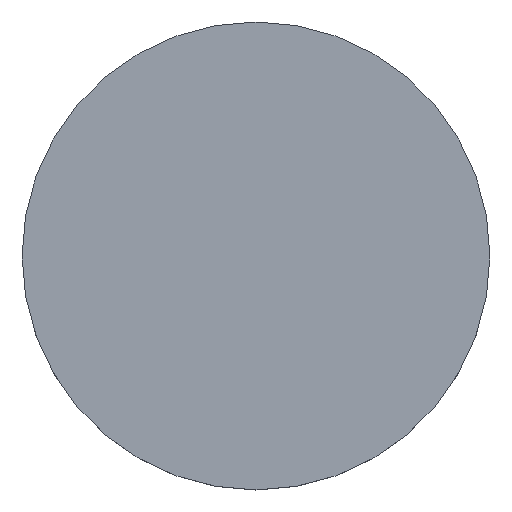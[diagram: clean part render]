
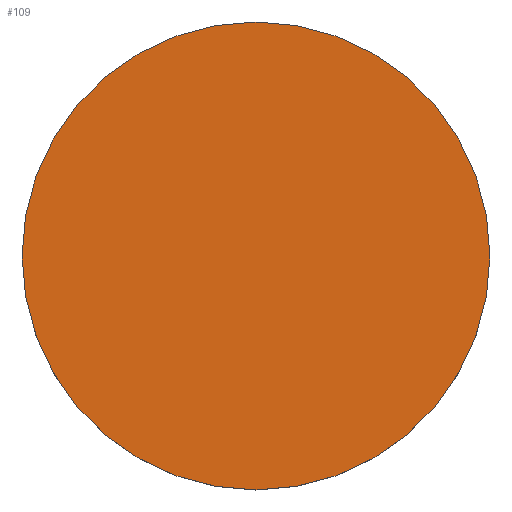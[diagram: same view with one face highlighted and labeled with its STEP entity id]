
A CAD part, top view. The second image highlights one B-rep face of the part: STEP entity #109.
In plain terms, the highlighted planar face has unit normal (0, 0, 1).
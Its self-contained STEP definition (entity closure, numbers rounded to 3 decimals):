
#24 = VERTEX_POINT('',#25);
#25 = CARTESIAN_POINT('',(6.5,0.,-7.5));
#32 = CYLINDRICAL_SURFACE('',#33,6.5);
#33 = AXIS2_PLACEMENT_3D('',#34,#35,#36);
#34 = CARTESIAN_POINT('',(0.,0.,-9.1));
#35 = DIRECTION('',(-0.,-0.,-1.));
#36 = DIRECTION('',(1.,0.,0.));
#51 = EDGE_CURVE('',#24,#24,#52,.T.);
#52 = SURFACE_CURVE('',#53,(#58,#65),.PCURVE_S1.);
#53 = CIRCLE('',#54,6.5);
#54 = AXIS2_PLACEMENT_3D('',#55,#56,#57);
#55 = CARTESIAN_POINT('',(0.,0.,-7.5));
#56 = DIRECTION('',(0.,0.,1.));
#57 = DIRECTION('',(1.,0.,0.));
#58 = PCURVE('',#32,#59);
#59 = DEFINITIONAL_REPRESENTATION('',(#60),#64);
#60 = LINE('',#61,#62);
#61 = CARTESIAN_POINT('',(-0.,-1.6));
#62 = VECTOR('',#63,1.);
#63 = DIRECTION('',(-1.,0.));
#64 = ( GEOMETRIC_REPRESENTATION_CONTEXT(2) 
PARAMETRIC_REPRESENTATION_CONTEXT() REPRESENTATION_CONTEXT('2D SPACE',''
  ) );
#65 = PCURVE('',#66,#71);
#66 = PLANE('',#67);
#67 = AXIS2_PLACEMENT_3D('',#68,#69,#70);
#68 = CARTESIAN_POINT('',(0.,0.,-7.5));
#69 = DIRECTION('',(0.,0.,1.));
#70 = DIRECTION('',(1.,0.,-0.));
#71 = DEFINITIONAL_REPRESENTATION('',(#72),#76);
#72 = CIRCLE('',#73,6.5);
#73 = AXIS2_PLACEMENT_2D('',#74,#75);
#74 = CARTESIAN_POINT('',(0.,0.));
#75 = DIRECTION('',(1.,0.));
#76 = ( GEOMETRIC_REPRESENTATION_CONTEXT(2) 
PARAMETRIC_REPRESENTATION_CONTEXT() REPRESENTATION_CONTEXT('2D SPACE',''
  ) );
#109 = ADVANCED_FACE('',(#110),#66,.T.);
#110 = FACE_BOUND('',#111,.T.);
#111 = EDGE_LOOP('',(#112));
#112 = ORIENTED_EDGE('',*,*,#51,.T.);
